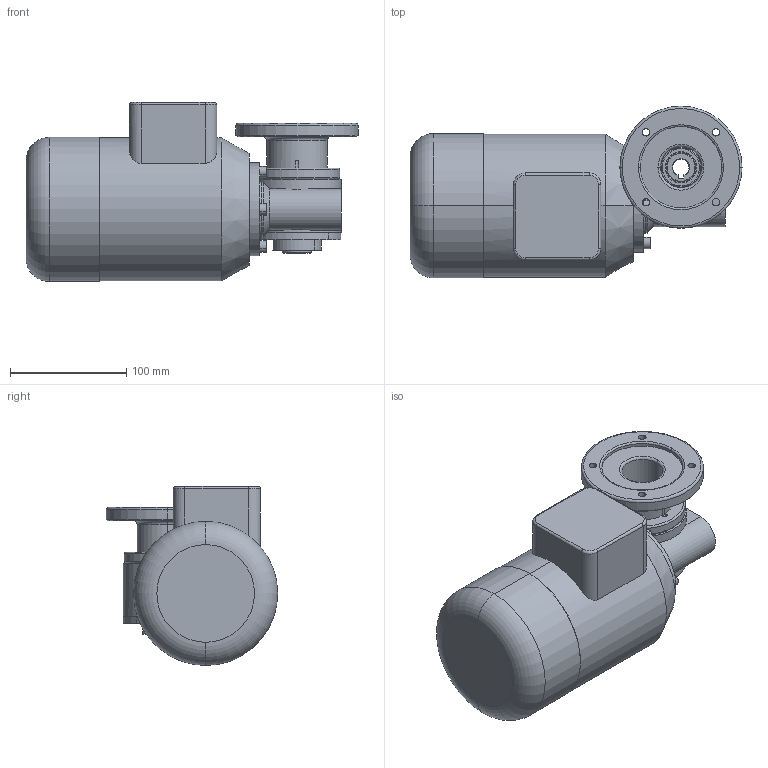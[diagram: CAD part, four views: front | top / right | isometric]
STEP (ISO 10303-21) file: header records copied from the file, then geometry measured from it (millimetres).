
FILE_DESCRIPTION (( 'STEP AP214' ), '1' );
FILE_NAME ('SN3BHFL_120W_180W_250W_D.STEP', '2021-03-16T13:35:16', ( '' ), ( '' ), 'SwSTEP 2.0', 'SolidWorks 2019', '' );
FILE_SCHEMA (( 'AUTOMOTIVE_DESIGN' ));
Length unit declared in the file: millimetre
Products named in the file (3): SN3BHFL_120W_180W_250W_D; 03BH-F-007; SN3BHFL_120W_180W_250W_D_o_F_D
Assembly tree (2 placements, depth 2):
  SN3BHFL_120W_180W_250W_D
    SN3BHFL_120W_180W_250W_D_o_F_D
    03BH-F-007
Bounding box: 285.5 x 147.5 x 154 mm (x, y, z)
Volume: 132116.1 mm3; surface area: 175636.3 mm2
Topology: 1 solids, 18 shells, 304 faces, 793 edges, 500 vertices
Faces by surface type: cylinder 120, plane 87, cone 64, torus 33
Entity records: 12396 total; most frequent: CARTESIAN_POINT 1915, DIRECTION 1777, ORIENTED_EDGE 1413, EDGE_CURVE 787, AXIS2_PLACEMENT_3D 710, VERTEX_POINT 500, CIRCLE 400, EDGE_LOOP 359
